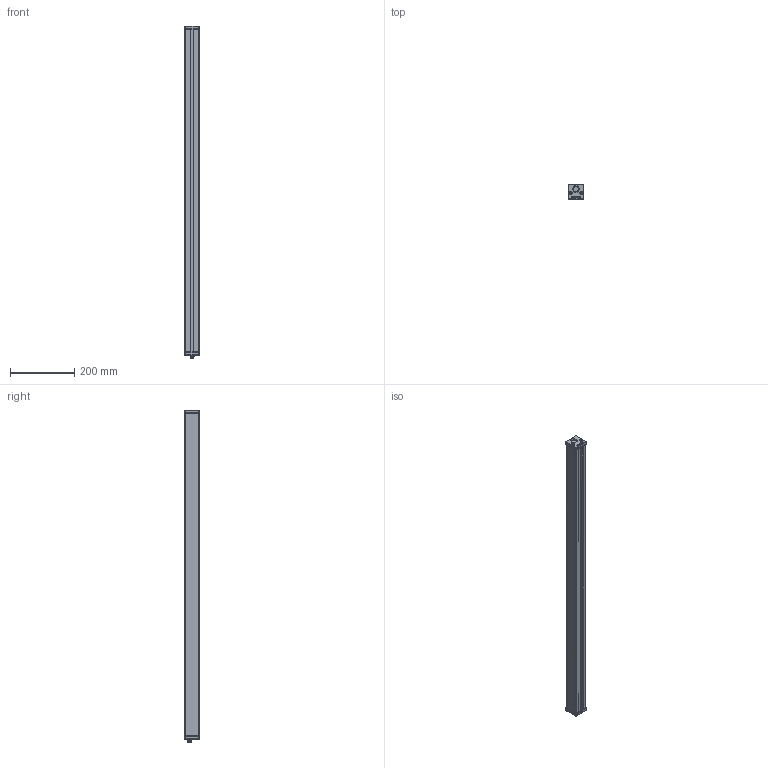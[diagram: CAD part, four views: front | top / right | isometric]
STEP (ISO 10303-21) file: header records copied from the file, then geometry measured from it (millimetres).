
FILE_DESCRIPTION (( 'STEP AP214' ), '1' );
FILE_NAME ('BLBAR 40.STEP', '2012-02-13T13:39:30', ( ' ' ), ( '' ), 'SwSTEP 2.0', 'SolidWorks 2009', '' );
FILE_SCHEMA (( 'AUTOMOTIVE_DESIGN' ));
Length unit declared in the file: millimetre
Products named in the file (1): BLBAR 40
Bounding box: 47.2 x 47 x 1037.1 mm (x, y, z)
Volume: 523207.4 mm3; surface area: 519035.2 mm2
Topology: 1 solids, 3 shells, 599 faces, 1564 edges, 1007 vertices
Faces by surface type: plane 311, cylinder 156, bspline 66, torus 38, cone 20, sphere 8
Entity records: 34060 total; most frequent: CARTESIAN_POINT 13050, ORIENTED_EDGE 3096, DIRECTION 2810, EDGE_CURVE 1548, VERTEX_POINT 999, VECTOR 950, LINE 950, AXIS2_PLACEMENT_3D 930
